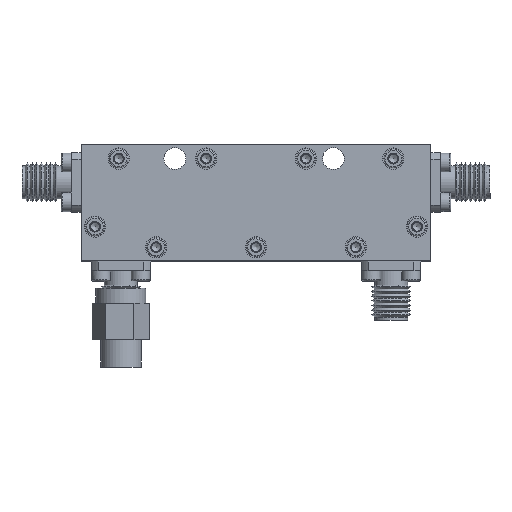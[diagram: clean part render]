
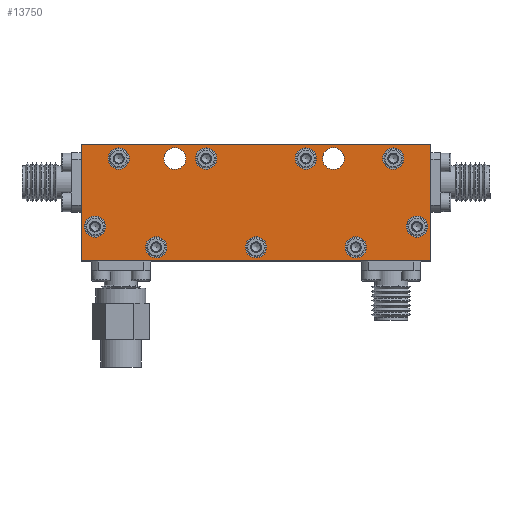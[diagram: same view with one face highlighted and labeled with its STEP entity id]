
A CAD part, top view. The second image highlights one B-rep face of the part: STEP entity #13750.
In plain terms, the highlighted planar face has unit normal (0, 0, 1).
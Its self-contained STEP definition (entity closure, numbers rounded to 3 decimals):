
#814=CIRCLE('',#14704,1.75);
#815=CIRCLE('',#14706,1.75);
#818=CIRCLE('',#14711,1.7);
#821=CIRCLE('',#14716,1.7);
#822=CIRCLE('',#14718,1.7);
#823=CIRCLE('',#14719,1.7);
#824=CIRCLE('',#14720,1.7);
#825=CIRCLE('',#14721,1.7);
#826=CIRCLE('',#14722,1.7);
#827=CIRCLE('',#14723,1.7);
#828=CIRCLE('',#14724,1.7);
#2245=ORIENTED_EDGE('',*,*,#3772,.F.);
#2246=ORIENTED_EDGE('',*,*,#3773,.F.);
#2247=ORIENTED_EDGE('',*,*,#3774,.F.);
#2248=ORIENTED_EDGE('',*,*,#3775,.F.);
#2249=ORIENTED_EDGE('',*,*,#3776,.T.);
#2250=ORIENTED_EDGE('',*,*,#3777,.T.);
#2251=ORIENTED_EDGE('',*,*,#3769,.T.);
#2252=ORIENTED_EDGE('',*,*,#3762,.T.);
#2253=ORIENTED_EDGE('',*,*,#3778,.T.);
#2254=ORIENTED_EDGE('',*,*,#3779,.T.);
#2255=ORIENTED_EDGE('',*,*,#3780,.T.);
#2256=ORIENTED_EDGE('',*,*,#3781,.T.);
#2257=ORIENTED_EDGE('',*,*,#3782,.T.);
#2258=ORIENTED_EDGE('',*,*,#3757,.F.);
#2259=ORIENTED_EDGE('',*,*,#3756,.F.);
#3756=EDGE_CURVE('',#4672,#4672,#814,.T.);
#3757=EDGE_CURVE('',#4673,#4673,#815,.T.);
#3762=EDGE_CURVE('',#4678,#4678,#818,.T.);
#3769=EDGE_CURVE('',#4684,#4684,#821,.T.);
#3772=EDGE_CURVE('',#4686,#4687,#5358,.T.);
#3773=EDGE_CURVE('',#4688,#4686,#5359,.T.);
#3774=EDGE_CURVE('',#4689,#4688,#5360,.T.);
#3775=EDGE_CURVE('',#4687,#4689,#5361,.T.);
#3776=EDGE_CURVE('',#4690,#4690,#822,.T.);
#3777=EDGE_CURVE('',#4691,#4691,#823,.T.);
#3778=EDGE_CURVE('',#4692,#4692,#824,.T.);
#3779=EDGE_CURVE('',#4693,#4693,#825,.T.);
#3780=EDGE_CURVE('',#4694,#4694,#826,.T.);
#3781=EDGE_CURVE('',#4695,#4695,#827,.T.);
#3782=EDGE_CURVE('',#4696,#4696,#828,.T.);
#4672=VERTEX_POINT('',#19679);
#4673=VERTEX_POINT('',#19682);
#4678=VERTEX_POINT('',#19697);
#4684=VERTEX_POINT('',#19721);
#4686=VERTEX_POINT('',#19733);
#4687=VERTEX_POINT('',#19734);
#4688=VERTEX_POINT('',#19736);
#4689=VERTEX_POINT('',#19738);
#4690=VERTEX_POINT('',#19741);
#4691=VERTEX_POINT('',#19743);
#4692=VERTEX_POINT('',#19745);
#4693=VERTEX_POINT('',#19747);
#4694=VERTEX_POINT('',#19749);
#4695=VERTEX_POINT('',#19751);
#4696=VERTEX_POINT('',#19753);
#5358=LINE('',#19732,#5760);
#5359=LINE('',#19735,#5761);
#5360=LINE('',#19737,#5762);
#5361=LINE('',#19739,#5763);
#5760=VECTOR('',#16735,1000.);
#5761=VECTOR('',#16736,1000.);
#5762=VECTOR('',#16737,1000.);
#5763=VECTOR('',#16738,1000.);
#6403=EDGE_LOOP('',(#2245,#2246,#2247,#2248));
#6404=EDGE_LOOP('',(#2249));
#6405=EDGE_LOOP('',(#2250));
#6406=EDGE_LOOP('',(#2251));
#6407=EDGE_LOOP('',(#2252));
#6408=EDGE_LOOP('',(#2253));
#6409=EDGE_LOOP('',(#2254));
#6410=EDGE_LOOP('',(#2255));
#6411=EDGE_LOOP('',(#2256));
#6412=EDGE_LOOP('',(#2257));
#6413=EDGE_LOOP('',(#2258));
#6414=EDGE_LOOP('',(#2259));
#7567=FACE_BOUND('',#6403,.T.);
#7568=FACE_BOUND('',#6404,.T.);
#7569=FACE_BOUND('',#6405,.T.);
#7570=FACE_BOUND('',#6406,.T.);
#7571=FACE_BOUND('',#6407,.T.);
#7572=FACE_BOUND('',#6408,.T.);
#7573=FACE_BOUND('',#6409,.T.);
#7574=FACE_BOUND('',#6410,.T.);
#7575=FACE_BOUND('',#6411,.T.);
#7576=FACE_BOUND('',#6412,.T.);
#7577=FACE_BOUND('',#6413,.T.);
#7578=FACE_BOUND('',#6414,.T.);
#8376=PLANE('',#14717);
#13750=ADVANCED_FACE('',(#7567,#7568,#7569,#7570,#7571,#7572,#7573,#7574,
#7575,#7576,#7577,#7578),#8376,.F.);
#14704=AXIS2_PLACEMENT_3D('',#19678,#16705,#16706);
#14706=AXIS2_PLACEMENT_3D('',#19681,#16709,#16710);
#14711=AXIS2_PLACEMENT_3D('',#19696,#16720,#16721);
#14716=AXIS2_PLACEMENT_3D('',#19720,#16731,#16732);
#14717=AXIS2_PLACEMENT_3D('',#19731,#16733,#16734);
#14718=AXIS2_PLACEMENT_3D('',#19740,#16739,#16740);
#14719=AXIS2_PLACEMENT_3D('',#19742,#16741,#16742);
#14720=AXIS2_PLACEMENT_3D('',#19744,#16743,#16744);
#14721=AXIS2_PLACEMENT_3D('',#19746,#16745,#16746);
#14722=AXIS2_PLACEMENT_3D('',#19748,#16747,#16748);
#14723=AXIS2_PLACEMENT_3D('',#19750,#16749,#16750);
#14724=AXIS2_PLACEMENT_3D('',#19752,#16751,#16752);
#16705=DIRECTION('',(0.,0.,1.));
#16706=DIRECTION('',(-1.,0.,0.));
#16709=DIRECTION('',(0.,0.,1.));
#16710=DIRECTION('',(-1.,0.,0.));
#16720=DIRECTION('',(0.,0.,-1.));
#16721=DIRECTION('',(0.,-1.,0.));
#16731=DIRECTION('',(0.,0.,-1.));
#16732=DIRECTION('',(0.,-1.,0.));
#16733=DIRECTION('',(0.,0.,-1.));
#16734=DIRECTION('',(-1.,0.,0.));
#16735=DIRECTION('',(0.,1.,0.));
#16736=DIRECTION('',(-1.,0.,0.));
#16737=DIRECTION('',(0.,-1.,0.));
#16738=DIRECTION('',(1.,0.,0.));
#16739=DIRECTION('',(0.,0.,-1.));
#16740=DIRECTION('',(0.,-1.,0.));
#16741=DIRECTION('',(0.,0.,-1.));
#16742=DIRECTION('',(0.,-1.,0.));
#16743=DIRECTION('',(0.,0.,-1.));
#16744=DIRECTION('',(0.,-1.,0.));
#16745=DIRECTION('',(0.,0.,-1.));
#16746=DIRECTION('',(0.,-1.,0.));
#16747=DIRECTION('',(0.,0.,-1.));
#16748=DIRECTION('',(0.,-1.,0.));
#16749=DIRECTION('',(0.,0.,-1.));
#16750=DIRECTION('',(0.,-1.,0.));
#16751=DIRECTION('',(0.,0.,-1.));
#16752=DIRECTION('',(0.,-1.,0.));
#19678=CARTESIAN_POINT('',(-29.5,7.1,12.1));
#19679=CARTESIAN_POINT('',(-31.25,7.1,12.1));
#19681=CARTESIAN_POINT('',(-4.1,7.1,12.1));
#19682=CARTESIAN_POINT('',(-5.85,7.1,12.1));
#19696=CARTESIAN_POINT('',(-42.3,-3.8,12.1));
#19697=CARTESIAN_POINT('',(-42.3,-5.5,12.1));
#19720=CARTESIAN_POINT('',(9.3,-3.8,12.1));
#19721=CARTESIAN_POINT('',(9.3,-5.5,12.1));
#19731=CARTESIAN_POINT('',(-44.5,9.3,12.1));
#19732=CARTESIAN_POINT('',(-44.5,-9.3,12.1));
#19733=CARTESIAN_POINT('',(-44.5,-9.3,12.1));
#19734=CARTESIAN_POINT('',(-44.5,9.3,12.1));
#19735=CARTESIAN_POINT('',(11.5,-9.3,12.1));
#19736=CARTESIAN_POINT('',(11.5,-9.3,12.1));
#19737=CARTESIAN_POINT('',(11.5,9.3,12.1));
#19738=CARTESIAN_POINT('',(11.5,9.3,12.1));
#19739=CARTESIAN_POINT('',(-44.5,9.3,12.1));
#19740=CARTESIAN_POINT('',(-32.5,-7.1,12.1));
#19741=CARTESIAN_POINT('',(-32.5,-8.8,12.1));
#19742=CARTESIAN_POINT('',(-16.5,-7.1,12.1));
#19743=CARTESIAN_POINT('',(-16.5,-8.8,12.1));
#19744=CARTESIAN_POINT('',(-38.5,7.1,12.1));
#19745=CARTESIAN_POINT('',(-38.5,5.4,12.1));
#19746=CARTESIAN_POINT('',(-24.5,7.1,12.1));
#19747=CARTESIAN_POINT('',(-24.5,5.4,12.1));
#19748=CARTESIAN_POINT('',(-8.5,7.1,12.1));
#19749=CARTESIAN_POINT('',(-8.5,5.4,12.1));
#19750=CARTESIAN_POINT('',(5.5,7.1,12.1));
#19751=CARTESIAN_POINT('',(5.5,5.4,12.1));
#19752=CARTESIAN_POINT('',(-0.5,-7.1,12.1));
#19753=CARTESIAN_POINT('',(-0.5,-8.8,12.1));
